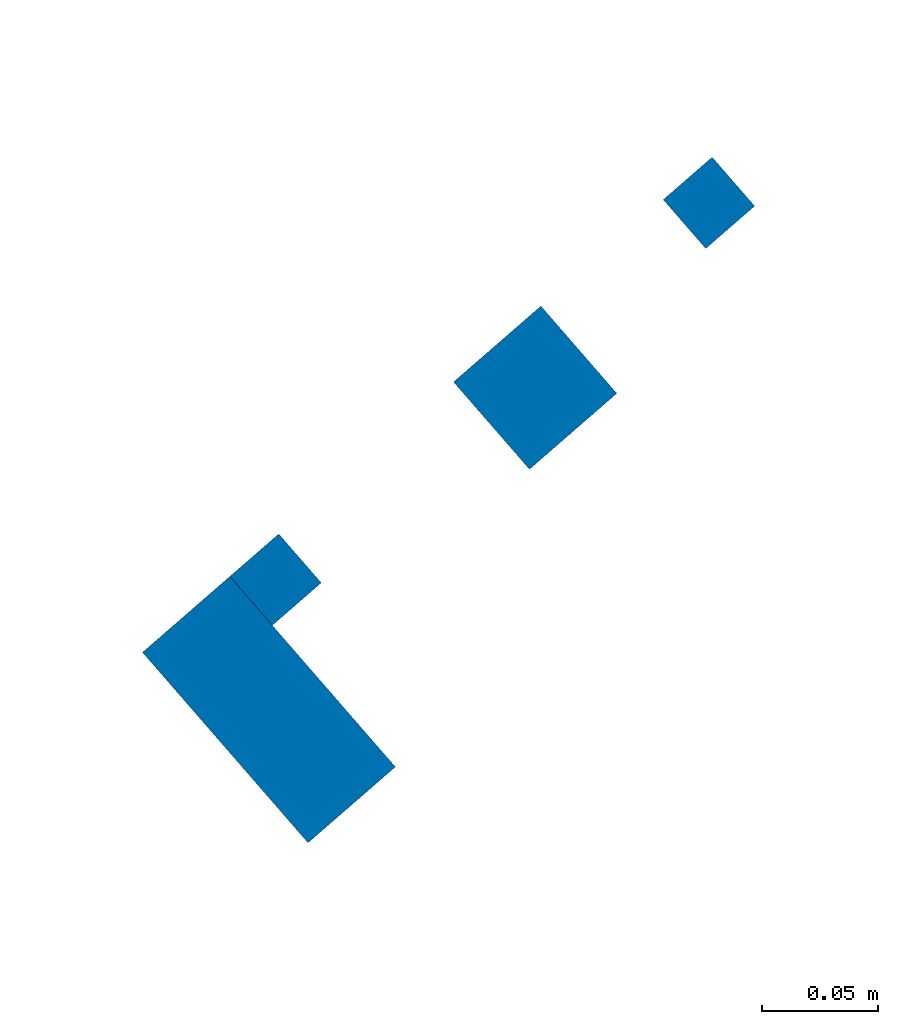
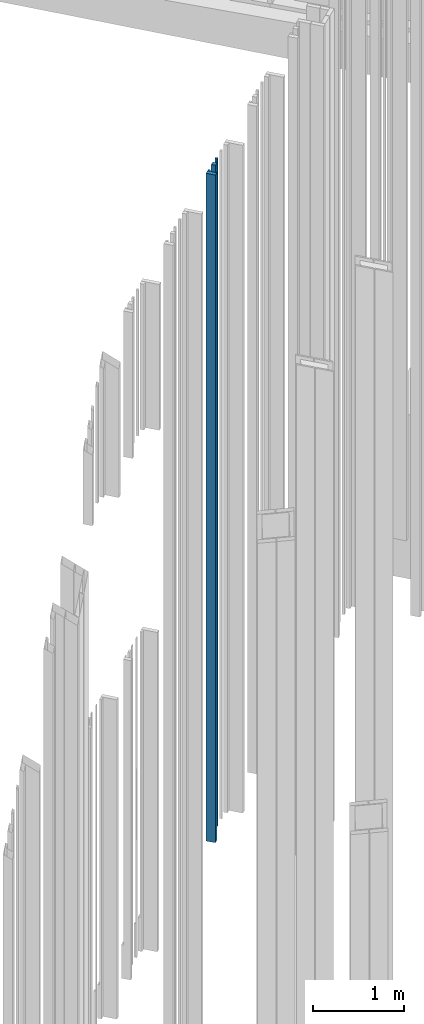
# One storey, part 262 of 390: 4 walls.
"""IFC2X3 building model written with IfcOpenShell, lengths in millimetres."""

from ifc_helpers import new_model, entity, si_unit, converted_unit, derived_unit, money_unit, direction, frame, origin_with_axes, place, context, subcontext, project, spatial, faceted_brep, material, type_object, element, save


model = new_model("IFC2X3")

# Units and contexts
model_context = context("Model", 3, precision=1e-05, world=origin_with_axes(), true_north=direction((0.0, 1.0)))
body_context = subcontext(model_context, "Body", "Model", "MODEL_VIEW")
ifc_project = project(units=[si_unit("LENGTHUNIT", "METRE", prefix="MILLI"), si_unit("AREAUNIT", "SQUARE_METRE"), si_unit("VOLUMEUNIT", "CUBIC_METRE"), converted_unit("PLANEANGLEUNIT", "DEGREE", entity("IfcPlaneAngleMeasure", 0.0174532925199), si_unit("PLANEANGLEUNIT", "RADIAN"), dimensions=[0, 0, 0, 0, 0, 0, 0]), si_unit("SOLIDANGLEUNIT", "STERADIAN"), money_unit("EUR"), converted_unit("TIMEUNIT", "Year", entity("IfcTimeMeasure", 31556926.0), si_unit("TIMEUNIT", "SECOND"), dimensions=[0, 0, 1, 0, 0, 0, 0]), si_unit("MASSUNIT", "GRAM", prefix="KILO"), si_unit("THERMODYNAMICTEMPERATUREUNIT", "DEGREE_CELSIUS"), si_unit("LUMINOUSINTENSITYUNIT", "LUMEN"), si_unit("ENERGYUNIT", "JOULE", prefix="MEGA"), derived_unit("THERMALCONDUCTANCEUNIT", [(si_unit("POWERUNIT", "WATT"), 1), (si_unit("LENGTHUNIT", "METRE"), -1), (si_unit("THERMODYNAMICTEMPERATUREUNIT", "KELVIN"), -1)]), derived_unit("SPECIFICHEATCAPACITYUNIT", [(si_unit("ENERGYUNIT", "JOULE"), 1), (si_unit("MASSUNIT", "GRAM", prefix="KILO"), -1), (si_unit("THERMODYNAMICTEMPERATUREUNIT", "KELVIN"), -1)]), derived_unit("MASSDENSITYUNIT", [(si_unit("MASSUNIT", "GRAM", prefix="KILO"), 1), (si_unit("VOLUMEUNIT", "CUBIC_METRE"), -1)])], contexts=[model_context])

# Site, building, storey
site_placement = place(None, origin_with_axes())
site = spatial("IfcSite", under=ifc_project, at=site_placement, Name="Site", CompositionType="ELEMENT")
building_placement = place(site_placement, origin_with_axes())
building = spatial("IfcBuilding", under=site, at=building_placement, Name="Building", CompositionType="ELEMENT")
storey_placement = place(building_placement, origin_with_axes())
storey = spatial("IfcBuildingStorey", under=building, at=storey_placement, Name="1 korrus", CompositionType="ELEMENT", Elevation=0.0)

# Walls
ifc_material = material(Name="Site specified")
wall_type = type_object("IfcWallType", Name="Puitfassaadi ribistik", PredefinedType="NOTDEFINED")
for number, where, z_axis, x_axis, name in (
    (1, (167177.424487, 89970.3097672, 935.0), (0.0, 0.0, 1.0), (-0.754709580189, -0.65605902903, 0.0), "Site specified"),
    (2, (166990.256511, 89807.6071281, 935.0), (0.0, 0.0, 1.0), (-0.754709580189, -0.65605902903, 0.0), "Site specified"),
):
    element("IfcWall", number, at=place(storey_placement, frame(where, z_axis=z_axis, x_axis=x_axis)), inside=storey, type_object=wall_type, material=ifc_material, Name=name, context=body_context, shape_type="Brep", body=[
        faceted_brep([(-14.0, -14.0, 8930.0), (-14.0, -14.0, 0.0), (14.0, -14.0, 0.0), (14.0, -14.0, 8930.0), (-14.0, 14.0, 8930.0), (-14.0, 14.0, 0.0), (14.0, 14.0, 0.0), (14.0, 14.0, 8930.0)], [[[0, 1, 2, 3]], [[4, 5, 1, 0]], [[2, 1, 5, 6]], [[3, 2, 6, 7]], [[4, 0, 3, 7]], [[7, 6, 5, 4]]]),
    ])
wall_1_placement = place(storey_placement, frame((166987.393228, 89751.4550879, 935.0), z_axis=(0.0, 0.0, 1.0), x_axis=(-0.754709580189, -0.65605902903, 0.0)))
element("IfcWall", 3, at=wall_1_placement, inside=storey, type_object=wall_type, material=ifc_material, Name="Site specified", context=body_context, shape_type="Brep", body=[
    faceted_brep([(-25.0, -54.5, 8930.0), (-25.0, -54.5, 0.0), (25.0, -54.5, 0.0), (25.0, -54.5, 8930.0), (-25.0, 54.5, 8930.0), (-25.0, 54.5, 0.0), (25.0, 54.5, 0.0), (25.0, 54.5, 8930.0)], [[[0, 1, 2, 3]], [[4, 5, 1, 0]], [[2, 1, 5, 6]], [[3, 2, 6, 7]], [[4, 0, 3, 7]], [[7, 6, 5, 4]]]),
])
wall_2_placement = place(storey_placement, frame((167102.377792, 89890.4975277, 935.0), z_axis=(0.0, 0.0, 1.0), x_axis=(-0.754709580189, -0.65605902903, 0.0)))
element("IfcWall", 4, at=wall_2_placement, inside=storey, type_object=wall_type, material=ifc_material, Name="Site specified", context=body_context, shape_type="Brep", body=[
    faceted_brep([(-25.0, -25.0, 8930.0), (-25.0, -25.0, 0.0), (25.0, -25.0, 0.0), (25.0, -25.0, 8930.0), (-25.0, 25.0, 8930.0), (-25.0, 25.0, 0.0), (25.0, 25.0, 0.0), (25.0, 25.0, 8930.0)], [[[0, 1, 2, 3]], [[4, 5, 1, 0]], [[2, 1, 5, 6]], [[3, 2, 6, 7]], [[4, 0, 3, 7]], [[7, 6, 5, 4]]]),
])

save(model, "model.ifc")
